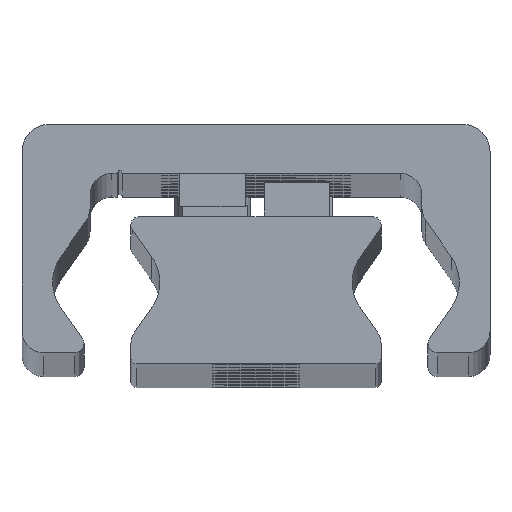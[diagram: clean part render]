
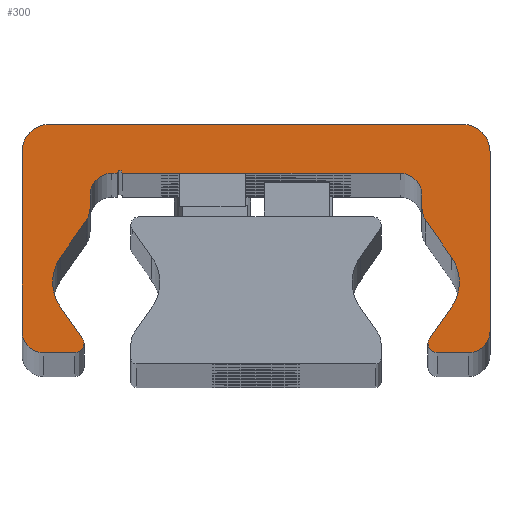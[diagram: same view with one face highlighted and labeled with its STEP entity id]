
A CAD part, top view. The second image highlights one B-rep face of the part: STEP entity #300.
In plain terms, the highlighted planar face has unit normal (0, 0, 1).
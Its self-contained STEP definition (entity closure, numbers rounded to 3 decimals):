
#300=ADVANCED_FACE('',(#842),#843,.T.);
#842=FACE_OUTER_BOUND('',#1385,.T.);
#843=PLANE('',#1386);
#1385=EDGE_LOOP('',(#3210,#3211,#3212,#3213,#3214,#3215,#3216,#3217,#3218,#3219,#3220,#3221,#3222,#3223,#3224,#3225,#3226,#3227,#3228,#3229,#3230,#3231,#3232,#3233,#3234,#3235,#3236,#3237,#3238,#3239));
#1386=AXIS2_PLACEMENT_3D('',#3240,#3241,#3242);
#3210=ORIENTED_EDGE('',*,*,#3599,.F.);
#3211=ORIENTED_EDGE('',*,*,#3862,.F.);
#3212=ORIENTED_EDGE('',*,*,#3585,.F.);
#3213=ORIENTED_EDGE('',*,*,#3861,.F.);
#3214=ORIENTED_EDGE('',*,*,#3857,.F.);
#3215=ORIENTED_EDGE('',*,*,#3854,.F.);
#3216=ORIENTED_EDGE('',*,*,#3851,.F.);
#3217=ORIENTED_EDGE('',*,*,#3848,.F.);
#3218=ORIENTED_EDGE('',*,*,#3845,.F.);
#3219=ORIENTED_EDGE('',*,*,#3842,.F.);
#3220=ORIENTED_EDGE('',*,*,#3839,.F.);
#3221=ORIENTED_EDGE('',*,*,#3836,.F.);
#3222=ORIENTED_EDGE('',*,*,#3833,.F.);
#3223=ORIENTED_EDGE('',*,*,#3830,.F.);
#3224=ORIENTED_EDGE('',*,*,#3591,.F.);
#3225=ORIENTED_EDGE('',*,*,#3828,.F.);
#3226=ORIENTED_EDGE('',*,*,#3593,.F.);
#3227=ORIENTED_EDGE('',*,*,#3827,.F.);
#3228=ORIENTED_EDGE('',*,*,#3823,.F.);
#3229=ORIENTED_EDGE('',*,*,#3820,.F.);
#3230=ORIENTED_EDGE('',*,*,#3817,.F.);
#3231=ORIENTED_EDGE('',*,*,#3814,.F.);
#3232=ORIENTED_EDGE('',*,*,#3811,.F.);
#3233=ORIENTED_EDGE('',*,*,#3808,.F.);
#3234=ORIENTED_EDGE('',*,*,#3805,.F.);
#3235=ORIENTED_EDGE('',*,*,#3802,.F.);
#3236=ORIENTED_EDGE('',*,*,#3799,.F.);
#3237=ORIENTED_EDGE('',*,*,#3796,.F.);
#3238=ORIENTED_EDGE('',*,*,#3793,.F.);
#3239=ORIENTED_EDGE('',*,*,#3790,.F.);
#3240=CARTESIAN_POINT('',(-0.023,14.187,1250.0));
#3241=DIRECTION('',(0.0,0.0,1.0));
#3242=DIRECTION('',(1.0,0.0,0.0));
#3585=EDGE_CURVE('',#4356,#4359,#4360,.T.);
#3591=EDGE_CURVE('',#4369,#4365,#4371,.T.);
#3593=EDGE_CURVE('',#4372,#4375,#4376,.T.);
#3599=EDGE_CURVE('',#4385,#4381,#4387,.T.);
#3790=EDGE_CURVE('',#4381,#4694,#4695,.T.);
#3793=EDGE_CURVE('',#4694,#4699,#4700,.T.);
#3796=EDGE_CURVE('',#4699,#4704,#4705,.T.);
#3799=EDGE_CURVE('',#4704,#4709,#4710,.T.);
#3802=EDGE_CURVE('',#4709,#4714,#4715,.T.);
#3805=EDGE_CURVE('',#4714,#4719,#4720,.T.);
#3808=EDGE_CURVE('',#4719,#4724,#4725,.T.);
#3811=EDGE_CURVE('',#4724,#4729,#4730,.T.);
#3814=EDGE_CURVE('',#4729,#4734,#4735,.T.);
#3817=EDGE_CURVE('',#4734,#4739,#4740,.T.);
#3820=EDGE_CURVE('',#4739,#4744,#4745,.T.);
#3823=EDGE_CURVE('',#4744,#4749,#4750,.T.);
#3827=EDGE_CURVE('',#4749,#4372,#4755,.T.);
#3828=EDGE_CURVE('',#4375,#4369,#4756,.T.);
#3830=EDGE_CURVE('',#4365,#4758,#4759,.T.);
#3833=EDGE_CURVE('',#4758,#4763,#4764,.T.);
#3836=EDGE_CURVE('',#4763,#4768,#4769,.T.);
#3839=EDGE_CURVE('',#4768,#4773,#4774,.T.);
#3842=EDGE_CURVE('',#4773,#4778,#4779,.T.);
#3845=EDGE_CURVE('',#4778,#4783,#4784,.T.);
#3848=EDGE_CURVE('',#4783,#4788,#4789,.T.);
#3851=EDGE_CURVE('',#4788,#4793,#4794,.T.);
#3854=EDGE_CURVE('',#4793,#4798,#4799,.T.);
#3857=EDGE_CURVE('',#4798,#4803,#4804,.T.);
#3861=EDGE_CURVE('',#4803,#4356,#4809,.T.);
#3862=EDGE_CURVE('',#4359,#4385,#4810,.T.);
#4356=VERTEX_POINT('',#5460);
#4359=VERTEX_POINT('',#5464);
#4360=CIRCLE('',#5465,0.85);
#4365=VERTEX_POINT('',#5471);
#4369=VERTEX_POINT('',#5476);
#4371=CIRCLE('',#5479,0.85);
#4372=VERTEX_POINT('',#5480);
#4375=VERTEX_POINT('',#5484);
#4376=CIRCLE('',#5485,4.);
#4381=VERTEX_POINT('',#5491);
#4385=VERTEX_POINT('',#5496);
#4387=CIRCLE('',#5499,4.);
#4694=VERTEX_POINT('',#5896);
#4695=CIRCLE('',#5897,4.);
#4699=VERTEX_POINT('',#5902);
#4700=LINE('',#5903,#5904);
#4704=VERTEX_POINT('',#5910);
#4705=CIRCLE('',#5911,2.);
#4709=VERTEX_POINT('',#5916);
#4710=LINE('',#5917,#5918);
#4714=VERTEX_POINT('',#5924);
#4715=CIRCLE('',#5925,2.0);
#4719=VERTEX_POINT('',#5930);
#4720=LINE('',#5931,#5932);
#4724=VERTEX_POINT('',#5938);
#4725=CIRCLE('',#5939,0.25);
#4729=VERTEX_POINT('',#5944);
#4730=LINE('',#5945,#5946);
#4734=VERTEX_POINT('',#5952);
#4735=CIRCLE('',#5953,2.0);
#4739=VERTEX_POINT('',#5958);
#4740=LINE('',#5959,#5960);
#4744=VERTEX_POINT('',#5966);
#4745=CIRCLE('',#5967,2.0);
#4749=VERTEX_POINT('',#5972);
#4750=LINE('',#5973,#5974);
#4755=CIRCLE('',#5981,4.);
#4756=LINE('',#5982,#5983);
#4758=VERTEX_POINT('',#5986);
#4759=CIRCLE('',#5987,0.85);
#4763=VERTEX_POINT('',#5992);
#4764=LINE('',#5993,#5994);
#4768=VERTEX_POINT('',#6000);
#4769=CIRCLE('',#6001,2.);
#4773=VERTEX_POINT('',#6006);
#4774=LINE('',#6007,#6008);
#4778=VERTEX_POINT('',#6014);
#4779=CIRCLE('',#6015,2.5);
#4783=VERTEX_POINT('',#6020);
#4784=LINE('',#6021,#6022);
#4788=VERTEX_POINT('',#6028);
#4789=CIRCLE('',#6029,2.5);
#4793=VERTEX_POINT('',#6034);
#4794=LINE('',#6035,#6036);
#4798=VERTEX_POINT('',#6042);
#4799=CIRCLE('',#6043,2.);
#4803=VERTEX_POINT('',#6048);
#4804=LINE('',#6049,#6050);
#4809=CIRCLE('',#6057,0.85);
#4810=LINE('',#6058,#6059);
#5460=CARTESIAN_POINT('',(15.8,1.859,1250.0));
#5464=CARTESIAN_POINT('',(15.922,2.298,1250.0));
#5465=AXIS2_PLACEMENT_3D('',#6675,#6676,#6677);
#5471=CARTESIAN_POINT('',(-15.8,1.859,1250.0));
#5476=CARTESIAN_POINT('',(-15.922,2.298,1250.0));
#5479=AXIS2_PLACEMENT_3D('',#6687,#6688,#6689);
#5480=CARTESIAN_POINT('',(-18.688,7.509,1250.0));
#5484=CARTESIAN_POINT('',(-17.964,5.214,1250.0));
#5485=AXIS2_PLACEMENT_3D('',#6691,#6692,#6693);
#5491=CARTESIAN_POINT('',(18.688,7.509,1250.0));
#5496=CARTESIAN_POINT('',(17.964,5.214,1250.0));
#5499=AXIS2_PLACEMENT_3D('',#6703,#6704,#6705);
#5896=CARTESIAN_POINT('',(17.964,9.803,1250.0));
#5897=AXIS2_PLACEMENT_3D('',#7096,#7097,#7098);
#5902=CARTESIAN_POINT('',(15.612,13.163,1250.0));
#5903=CARTESIAN_POINT('',(15.612,13.163,1250.0));
#5904=VECTOR('',#7103,1.0);
#5910=CARTESIAN_POINT('',(15.25,14.31,1250.0));
#5911=AXIS2_PLACEMENT_3D('',#7106,#7107,#7108);
#5916=CARTESIAN_POINT('',(15.25,15.509,1250.0));
#5917=CARTESIAN_POINT('',(15.25,15.509,1250.0));
#5918=VECTOR('',#7113,1.0);
#5924=CARTESIAN_POINT('',(13.25,17.509,1250.0));
#5925=AXIS2_PLACEMENT_3D('',#7116,#7117,#7118);
#5930=CARTESIAN_POINT('',(-12.25,17.509,1250.0));
#5931=CARTESIAN_POINT('',(-12.25,17.509,1250.0));
#5932=VECTOR('',#7123,1.0);
#5938=CARTESIAN_POINT('',(-12.75,17.509,1250.0));
#5939=AXIS2_PLACEMENT_3D('',#7126,#7127,#7128);
#5944=CARTESIAN_POINT('',(-13.25,17.509,1250.0));
#5945=CARTESIAN_POINT('',(-13.25,17.509,1250.0));
#5946=VECTOR('',#7133,1.0);
#5952=CARTESIAN_POINT('',(-15.25,15.509,1250.0));
#5953=AXIS2_PLACEMENT_3D('',#7136,#7137,#7138);
#5958=CARTESIAN_POINT('',(-15.25,14.31,1250.0));
#5959=CARTESIAN_POINT('',(-15.25,14.31,1250.0));
#5960=VECTOR('',#7143,1.0);
#5966=CARTESIAN_POINT('',(-15.612,13.163,1250.0));
#5967=AXIS2_PLACEMENT_3D('',#7146,#7147,#7148);
#5972=CARTESIAN_POINT('',(-17.964,9.803,1250.0));
#5973=CARTESIAN_POINT('',(-17.964,9.803,1250.0));
#5974=VECTOR('',#7153,1.0);
#5981=AXIS2_PLACEMENT_3D('',#7159,#7160,#7161);
#5982=CARTESIAN_POINT('',(-15.922,2.298,1250.0));
#5983=VECTOR('',#7162,1.0);
#5986=CARTESIAN_POINT('',(-16.65,1.009,1250.0));
#5987=AXIS2_PLACEMENT_3D('',#7164,#7165,#7166);
#5992=CARTESIAN_POINT('',(-19.5,1.009,1250.0));
#5993=CARTESIAN_POINT('',(-19.5,1.009,1250.0));
#5994=VECTOR('',#7171,1.0);
#6000=CARTESIAN_POINT('',(-21.5,3.009,1250.0));
#6001=AXIS2_PLACEMENT_3D('',#7174,#7175,#7176);
#6006=CARTESIAN_POINT('',(-21.5,19.509,1250.0));
#6007=CARTESIAN_POINT('',(-21.5,19.509,1250.0));
#6008=VECTOR('',#7181,1.0);
#6014=CARTESIAN_POINT('',(-19.0,22.009,1250.0));
#6015=AXIS2_PLACEMENT_3D('',#7184,#7185,#7186);
#6020=CARTESIAN_POINT('',(19.0,22.009,1250.0));
#6021=CARTESIAN_POINT('',(19.0,22.009,1250.0));
#6022=VECTOR('',#7191,1.0);
#6028=CARTESIAN_POINT('',(21.5,19.509,1250.0));
#6029=AXIS2_PLACEMENT_3D('',#7194,#7195,#7196);
#6034=CARTESIAN_POINT('',(21.5,3.009,1250.0));
#6035=CARTESIAN_POINT('',(21.5,3.009,1250.0));
#6036=VECTOR('',#7201,1.0);
#6042=CARTESIAN_POINT('',(19.5,1.009,1250.0));
#6043=AXIS2_PLACEMENT_3D('',#7204,#7205,#7206);
#6048=CARTESIAN_POINT('',(16.65,1.009,1250.0));
#6049=CARTESIAN_POINT('',(16.65,1.009,1250.0));
#6050=VECTOR('',#7211,1.0);
#6057=AXIS2_PLACEMENT_3D('',#7217,#7218,#7219);
#6058=CARTESIAN_POINT('',(17.964,5.214,1250.0));
#6059=VECTOR('',#7220,1.0);
#6675=CARTESIAN_POINT('',(16.65,1.859,1250.0));
#6676=DIRECTION('',(0.0,0.0,-1.0));
#6677=DIRECTION('',(1.0,0.0,0.0));
#6687=CARTESIAN_POINT('',(-16.65,1.859,1250.0));
#6688=DIRECTION('',(0.0,0.0,-1.0));
#6689=DIRECTION('',(1.0,0.0,0.0));
#6691=CARTESIAN_POINT('',(-14.688,7.509,1250.0));
#6692=DIRECTION('',(0.0,0.0,1.0));
#6693=DIRECTION('',(1.0,0.0,0.0));
#6703=CARTESIAN_POINT('',(14.688,7.509,1250.0));
#6704=DIRECTION('',(0.0,0.0,1.0));
#6705=DIRECTION('',(1.0,0.0,0.0));
#7096=CARTESIAN_POINT('',(14.688,7.509,1250.0));
#7097=DIRECTION('',(0.0,0.0,1.0));
#7098=DIRECTION('',(1.0,0.0,0.0));
#7103=DIRECTION('',(-0.574,0.819,0.0));
#7106=CARTESIAN_POINT('',(17.25,14.31,1250.0));
#7107=DIRECTION('',(0.0,0.0,-1.0));
#7108=DIRECTION('',(1.0,0.0,0.0));
#7113=DIRECTION('',(0.0,1.0,0.0));
#7116=CARTESIAN_POINT('',(13.25,15.509,1250.0));
#7117=DIRECTION('',(0.0,0.0,1.0));
#7118=DIRECTION('',(1.0,0.0,0.0));
#7123=DIRECTION('',(-1.0,-0.0,-0.0));
#7126=CARTESIAN_POINT('',(-12.5,17.509,1250.0));
#7127=DIRECTION('',(0.0,0.0,1.0));
#7128=DIRECTION('',(1.0,0.0,0.0));
#7133=DIRECTION('',(-1.0,-0.0,-0.0));
#7136=CARTESIAN_POINT('',(-13.25,15.509,1250.0));
#7137=DIRECTION('',(0.0,0.0,1.0));
#7138=DIRECTION('',(1.0,0.0,0.0));
#7143=DIRECTION('',(-0.0,-1.0,-0.0));
#7146=CARTESIAN_POINT('',(-17.25,14.31,1250.0));
#7147=DIRECTION('',(0.0,0.0,-1.0));
#7148=DIRECTION('',(1.0,0.0,0.0));
#7153=DIRECTION('',(-0.574,-0.819,-0.0));
#7159=CARTESIAN_POINT('',(-14.688,7.509,1250.0));
#7160=DIRECTION('',(0.0,0.0,1.0));
#7161=DIRECTION('',(1.0,0.0,0.0));
#7162=DIRECTION('',(0.574,-0.819,0.0));
#7164=CARTESIAN_POINT('',(-16.65,1.859,1250.0));
#7165=DIRECTION('',(0.0,0.0,-1.0));
#7166=DIRECTION('',(1.0,0.0,0.0));
#7171=DIRECTION('',(-1.0,-0.0,-0.0));
#7174=CARTESIAN_POINT('',(-19.5,3.009,1250.0));
#7175=DIRECTION('',(0.0,0.0,-1.0));
#7176=DIRECTION('',(1.0,0.0,0.0));
#7181=DIRECTION('',(0.0,1.0,0.0));
#7184=CARTESIAN_POINT('',(-19.0,19.509,1250.0));
#7185=DIRECTION('',(0.0,0.0,-1.0));
#7186=DIRECTION('',(1.0,0.0,0.0));
#7191=DIRECTION('',(1.0,0.0,0.0));
#7194=CARTESIAN_POINT('',(19.0,19.509,1250.0));
#7195=DIRECTION('',(0.0,0.0,-1.0));
#7196=DIRECTION('',(1.0,0.0,0.0));
#7201=DIRECTION('',(-0.0,-1.0,-0.0));
#7204=CARTESIAN_POINT('',(19.5,3.009,1250.0));
#7205=DIRECTION('',(0.0,0.0,-1.0));
#7206=DIRECTION('',(1.0,0.0,0.0));
#7211=DIRECTION('',(-1.0,-0.0,-0.0));
#7217=CARTESIAN_POINT('',(16.65,1.859,1250.0));
#7218=DIRECTION('',(0.0,0.0,-1.0));
#7219=DIRECTION('',(1.0,0.0,0.0));
#7220=DIRECTION('',(0.574,0.819,0.0));
